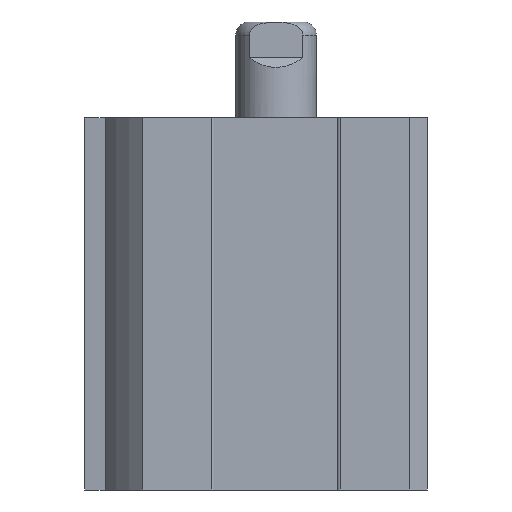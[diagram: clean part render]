
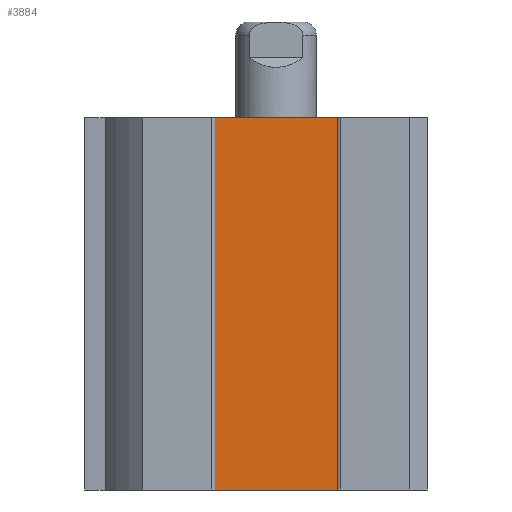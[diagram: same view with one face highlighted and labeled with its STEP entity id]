
A CAD part, left-side view. The second image highlights one B-rep face of the part: STEP entity #3884.
In plain terms, the highlighted planar face has unit normal (-1, 0, 0).
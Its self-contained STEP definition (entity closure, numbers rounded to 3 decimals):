
#118=PLANE('',#4129);
#209=LINE('',#5598,#375);
#210=LINE('',#5600,#376);
#211=LINE('',#5602,#377);
#212=LINE('',#5604,#378);
#375=VECTOR('',#4608,1000.);
#376=VECTOR('',#4611,1000.);
#377=VECTOR('',#4612,1000.);
#378=VECTOR('',#4613,1000.);
#606=ORIENTED_EDGE('',*,*,#1350,.T.);
#607=ORIENTED_EDGE('',*,*,#1349,.F.);
#608=ORIENTED_EDGE('',*,*,#1351,.T.);
#609=ORIENTED_EDGE('',*,*,#1352,.T.);
#1349=EDGE_CURVE('',#1726,#1725,#209,.T.);
#1350=EDGE_CURVE('',#1727,#1725,#210,.T.);
#1351=EDGE_CURVE('',#1726,#1728,#211,.T.);
#1352=EDGE_CURVE('',#1728,#1727,#212,.T.);
#1725=VERTEX_POINT('',#5595);
#1726=VERTEX_POINT('',#5597);
#1727=VERTEX_POINT('',#5601);
#1728=VERTEX_POINT('',#5603);
#2209=EDGE_LOOP('',(#606,#607,#608,#609));
#2494=FACE_BOUND('',#2209,.T.);
#3884=ADVANCED_FACE('',(#2494),#118,.T.);
#4129=AXIS2_PLACEMENT_3D('',#5599,#4609,#4610);
#4608=DIRECTION('',(0.,0.,1.));
#4609=DIRECTION('',(-1.,0.,0.));
#4610=DIRECTION('',(0.,0.,1.));
#4611=DIRECTION('',(0.,1.,0.));
#4612=DIRECTION('',(0.,-1.,0.));
#4613=DIRECTION('',(0.,0.,1.));
#5595=CARTESIAN_POINT('',(-10.,6.124,37.));
#5597=CARTESIAN_POINT('',(-10.,6.124,0.));
#5598=CARTESIAN_POINT('',(-10.,6.124,0.));
#5599=CARTESIAN_POINT('',(-10.,-6.124,0.));
#5600=CARTESIAN_POINT('',(-10.,-6.124,37.));
#5601=CARTESIAN_POINT('',(-10.,-6.124,37.));
#5602=CARTESIAN_POINT('',(-10.,6.124,0.));
#5603=CARTESIAN_POINT('',(-10.,-6.124,0.));
#5604=CARTESIAN_POINT('',(-10.,-6.124,0.));
